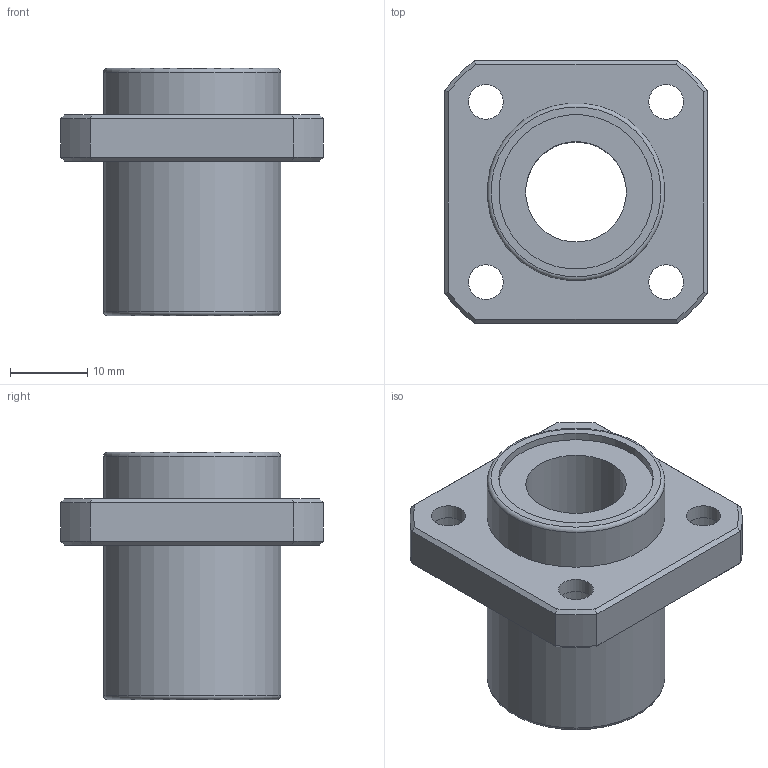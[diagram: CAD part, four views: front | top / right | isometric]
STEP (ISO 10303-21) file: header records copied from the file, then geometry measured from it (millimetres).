
FILE_DESCRIPTION(/* description */ (''),/* implementation_level */ '2;1');
FILE_NAME(/* name */ 'LMKP13UU',/* time_stamp */ '2019-07-10T08:51:28+02:00',/* author */ ('VĂ©gh MĂˇtĂ©'),/* organization */ ('Bearing Kft'),/* preprocessor_version */ 'ST-DEVELOPER v16.7',/* originating_system */ 'DEX',/* authorisation */ $);
FILE_SCHEMA (('AUTOMOTIVE_DESIGN {1 0 10303 214 3 1 1}'));
Length unit declared in the file: millimetre
Products named in the file (1): LMKP13UU
Bounding box: 34 x 34 x 32 mm (x, y, z)
Volume: 12080.6 mm3; surface area: 6257.7 mm2
Topology: 1 solids, 1 shells, 363 faces, 904 edges, 598 vertices
Faces by surface type: plane 269, bspline 64, cylinder 20, cone 8, torus 2
Full cylindrical faces by diameter (mm): 4.5 x4, 7.5 x4, 13 x1, 20 x2, 23 x2
Entity records: 13308 total; most frequent: CARTESIAN_POINT 5100, ORIENTED_EDGE 1768, DIRECTION 1390, EDGE_CURVE 884, LINE 690, VECTOR 690, VERTEX_POINT 594, EDGE_LOOP 444
